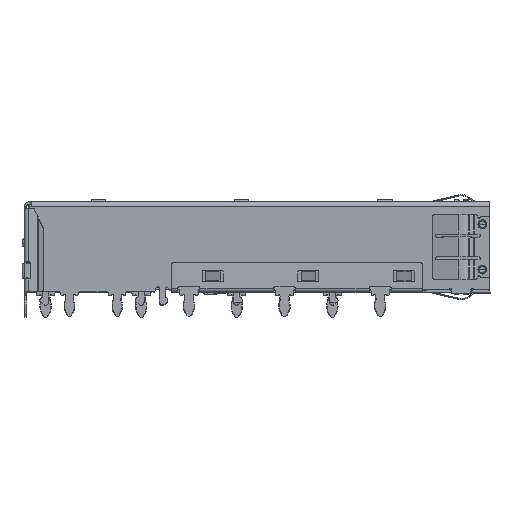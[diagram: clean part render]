
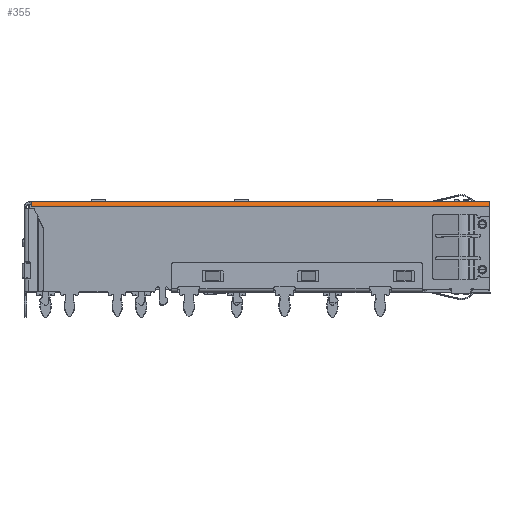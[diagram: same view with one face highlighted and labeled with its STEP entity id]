
A CAD part, top view. The second image highlights one B-rep face of the part: STEP entity #355.
In plain terms, the highlighted cylindrical face has radius 0.5 mm (diameter 1 mm), a partial arc.
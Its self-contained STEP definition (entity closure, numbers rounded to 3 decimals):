
#355 = ADVANCED_FACE ( 'NONE', ( #5994 ), #5997, .T. ) ;
#2340 = CARTESIAN_POINT ( 'NONE',  ( -48.02, -0.5, 14.375 ) ) ;
#2343 = CARTESIAN_POINT ( 'NONE',  ( 0., -0.5, 14.375 ) ) ;
#5994 = FACE_OUTER_BOUND ( 'NONE', #74402, .T. ) ;
#5997 = CYLINDRICAL_SURFACE ( 'NONE', #92424, 0.5 ) ;
#11765 = LINE ( 'NONE', #13379, #11768 ) ;
#11768 = VECTOR ( 'NONE', #13381, 1000. ) ;
#12386 = CIRCLE ( 'NONE', #15261, 0.5 ) ;
#12396 = CIRCLE ( 'NONE', #15265, 0.5 ) ;
#12400 = LINE ( 'NONE', #19150, #12403 ) ;
#12403 = VECTOR ( 'NONE', #19152, 1000. ) ;
#13379 = CARTESIAN_POINT ( 'NONE',  ( 0., -0.5, 14.375 ) ) ;
#13381 = DIRECTION ( 'NONE',  ( 1., 0., 0. ) ) ;
#15261 = AXIS2_PLACEMENT_3D ( 'NONE', #19105, #19107, #19109 ) ;
#15265 = AXIS2_PLACEMENT_3D ( 'NONE', #19136, #19137, #19139 ) ;
#19105 = CARTESIAN_POINT ( 'NONE',  ( -48.02, -0.5, 13.875 ) ) ;
#19107 = DIRECTION ( 'NONE',  ( -1., 0., 0. ) ) ;
#19109 = DIRECTION ( 'NONE',  ( 0., 0., 1. ) ) ;
#19136 = CARTESIAN_POINT ( 'NONE',  ( 0., -0.5, 13.875 ) ) ;
#19137 = DIRECTION ( 'NONE',  ( 1., 0., 0. ) ) ;
#19139 = DIRECTION ( 'NONE',  ( 0., 0., 1. ) ) ;
#19150 = CARTESIAN_POINT ( 'NONE',  ( 0., 0., 13.875 ) ) ;
#19152 = DIRECTION ( 'NONE',  ( 1., 0., 0. ) ) ;
#22017 = CARTESIAN_POINT ( 'NONE',  ( -48.02, 0., 13.875 ) ) ;
#22018 = CARTESIAN_POINT ( 'NONE',  ( 0., 0., 13.875 ) ) ;
#32752 = DIRECTION ( 'NONE',  ( -1., 0., 0. ) ) ;
#32754 = DIRECTION ( 'NONE',  ( 0., 0., 1. ) ) ;
#32758 = CARTESIAN_POINT ( 'NONE',  ( 24.013, -0.5, 13.875 ) ) ;
#64861 = VERTEX_POINT ( 'NONE', #2340 ) ;
#64864 = VERTEX_POINT ( 'NONE', #2343 ) ;
#66753 = EDGE_CURVE ( 'NONE', #64861, #64864, #11765, .T. ) ;
#67173 = EDGE_CURVE ( 'NONE', #64861, #79885, #12386, .T. ) ;
#67179 = EDGE_CURVE ( 'NONE', #79887, #64864, #12396, .T. ) ;
#67182 = EDGE_CURVE ( 'NONE', #79885, #79887, #12400, .T. ) ;
#74402 = EDGE_LOOP ( 'NONE', ( #88645, #88646, #88648, #88650 ) ) ;
#79885 = VERTEX_POINT ( 'NONE', #22017 ) ;
#79887 = VERTEX_POINT ( 'NONE', #22018 ) ;
#88645 = ORIENTED_EDGE ( 'NONE', *, *, #67182, .F. ) ;
#88646 = ORIENTED_EDGE ( 'NONE', *, *, #67173, .F. ) ;
#88648 = ORIENTED_EDGE ( 'NONE', *, *, #66753, .T. ) ;
#88650 = ORIENTED_EDGE ( 'NONE', *, *, #67179, .F. ) ;
#92424 = AXIS2_PLACEMENT_3D ( 'NONE', #32758, #32752, #32754 ) ;
